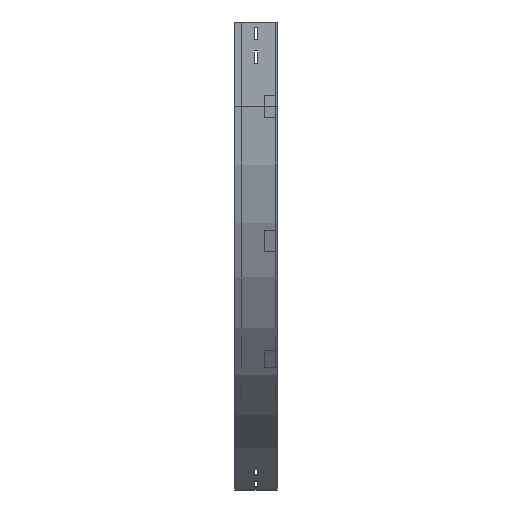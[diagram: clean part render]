
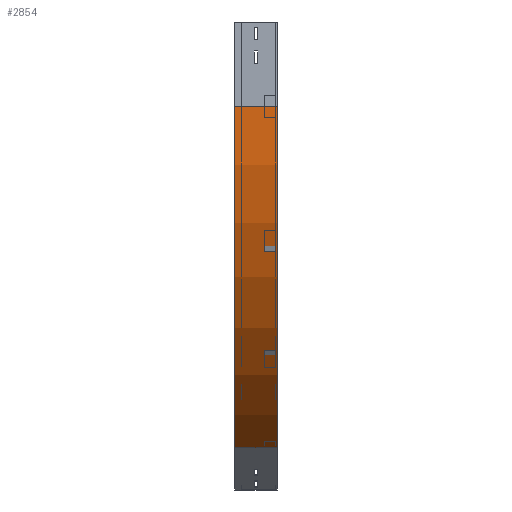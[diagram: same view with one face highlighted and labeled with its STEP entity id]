
A CAD part, left-side view. The second image highlights one B-rep face of the part: STEP entity #2854.
In plain terms, the highlighted cylindrical face has radius 700 mm (diameter 1400 mm), a partial arc.
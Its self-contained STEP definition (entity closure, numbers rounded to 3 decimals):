
#81 = CARTESIAN_POINT ( 'NONE',  ( 350., 75., -756.218 ) ) ;
#176 = VERTEX_POINT ( 'NONE', #3393 ) ;
#196 = CARTESIAN_POINT ( 'NONE',  ( 350., 0., -756.218 ) ) ;
#210 = DIRECTION ( 'NONE',  ( -1., 0., 0. ) ) ;
#306 = CYLINDRICAL_SURFACE ( 'NONE', #345, 700. ) ;
#345 = AXIS2_PLACEMENT_3D ( 'NONE', #2378, #3331, #1803 ) ;
#411 = AXIS2_PLACEMENT_3D ( 'NONE', #771, #1643, #1409 ) ;
#483 = DIRECTION ( 'NONE',  ( 0., -1., 0. ) ) ;
#525 = VERTEX_POINT ( 'NONE', #1203 ) ;
#640 = VERTEX_POINT ( 'NONE', #81 ) ;
#771 = CARTESIAN_POINT ( 'NONE',  ( 700., 75., -150. ) ) ;
#774 = EDGE_CURVE ( 'NONE', #1988, #640, #1232, .T. ) ;
#1107 = CARTESIAN_POINT ( 'NONE',  ( 0., 75., -150. ) ) ;
#1180 = EDGE_CURVE ( 'NONE', #640, #176, #3481, .T. ) ;
#1203 = CARTESIAN_POINT ( 'NONE',  ( 0., 0., -150. ) ) ;
#1232 = CIRCLE ( 'NONE', #411, 700. ) ;
#1238 = VECTOR ( 'NONE', #483, 1000. ) ;
#1409 = DIRECTION ( 'NONE',  ( -1., 0., 0. ) ) ;
#1538 = ORIENTED_EDGE ( 'NONE', *, *, #1180, .T. ) ;
#1541 = EDGE_CURVE ( 'NONE', #1988, #525, #1964, .T. ) ;
#1606 = EDGE_CURVE ( 'NONE', #525, #176, #2118, .T. ) ;
#1614 = EDGE_LOOP ( 'NONE', ( #1882, #2114, #2984, #1538 ) ) ;
#1643 = DIRECTION ( 'NONE',  ( 0., -1., 0. ) ) ;
#1803 = DIRECTION ( 'NONE',  ( 0., 0., -1. ) ) ;
#1882 = ORIENTED_EDGE ( 'NONE', *, *, #1606, .F. ) ;
#1964 = LINE ( 'NONE', #3530, #1238 ) ;
#1988 = VERTEX_POINT ( 'NONE', #1107 ) ;
#2044 = VECTOR ( 'NONE', #2634, 1000. ) ;
#2114 = ORIENTED_EDGE ( 'NONE', *, *, #1541, .F. ) ;
#2118 = CIRCLE ( 'NONE', #3111, 700. ) ;
#2378 = CARTESIAN_POINT ( 'NONE',  ( 700., 0., -150. ) ) ;
#2634 = DIRECTION ( 'NONE',  ( 0., -1., 0. ) ) ;
#2666 = FACE_OUTER_BOUND ( 'NONE', #1614, .T. ) ;
#2854 = ADVANCED_FACE ( 'NONE', ( #2666 ), #306, .T. ) ;
#2891 = DIRECTION ( 'NONE',  ( 0., -1., 0. ) ) ;
#2984 = ORIENTED_EDGE ( 'NONE', *, *, #774, .T. ) ;
#3111 = AXIS2_PLACEMENT_3D ( 'NONE', #3184, #2891, #210 ) ;
#3184 = CARTESIAN_POINT ( 'NONE',  ( 700., 0., -150. ) ) ;
#3331 = DIRECTION ( 'NONE',  ( 0., -1., 0. ) ) ;
#3393 = CARTESIAN_POINT ( 'NONE',  ( 350., 0., -756.218 ) ) ;
#3481 = LINE ( 'NONE', #196, #2044 ) ;
#3530 = CARTESIAN_POINT ( 'NONE',  ( 0., 0., -150. ) ) ;
